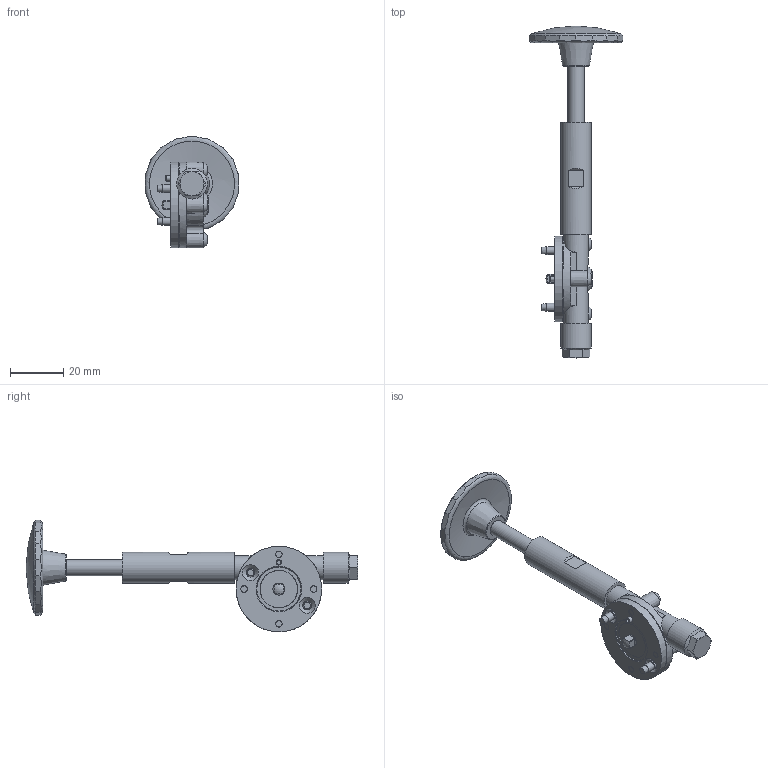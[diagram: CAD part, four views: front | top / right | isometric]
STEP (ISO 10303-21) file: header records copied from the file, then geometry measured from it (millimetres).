
FILE_DESCRIPTION(/* description */ (''),/* implementation_level */ '2;1');
FILE_NAME(/* name */ 'D:\_Vault\Workspace\Projektordner\Sensoren\PSENmlock2\Kundendaten\2025699_Kundendaten_PSEN_ml_escape_release_1.stp',/* time_stamp */ '2018-01-23T10:24:39+01:00',/* author */ ('ES-STS'),/* organization */ (''),/* preprocessor_version */ 'ST-DEVELOPER v16.5',/* originating_system */ 'Autodesk Inventor 2017',/* authorisation */ '');
FILE_SCHEMA (('AUTOMOTIVE_DESIGN { 1 0 10303 214 3 1 1 }'));
Length unit declared in the file: millimetre
Products named in the file (6): 2025699; Antriebseinheit_PSEN_ml_escape_release; Adapterscheibe_PSEN_ml_escape_release; Knopfgriff_abgeleitet; H305327; H305200
Assembly tree (9 placements, depth 2):
  2025699
    Antriebseinheit_PSEN_ml_escape_release
    Adapterscheibe_PSEN_ml_escape_release
    Knopfgriff_abgeleitet
    H305327  x4
    H305200  x2
Bounding box: 35 x 124.2 x 41.77 mm (x, y, z)
Volume: 19347.3 mm3; surface area: 11610 mm2
Topology: 9 solids, 9 shells, 390 faces, 973 edges, 624 vertices
Faces by surface type: plane 168, cylinder 126, cone 72, torus 17, sphere 7
Full cylindrical faces by diameter (mm): 2.459 x4, 2.693 x2, 3 x6, 3.4 x2, 4.4 x1, 4.5 x1, 4.917 x1, 5.5 x2, 6 x2, 9 x2, 11.5 x2, 14 x1, 16.7 x1, 32 x1
Entity records: 9034 total; most frequent: CARTESIAN_POINT 2236, DIRECTION 1422, ORIENTED_EDGE 1294, EDGE_CURVE 647, AXIS2_PLACEMENT_3D 573, VERTEX_POINT 447, EDGE_LOOP 384, FACE_OUTER_BOUND 285
